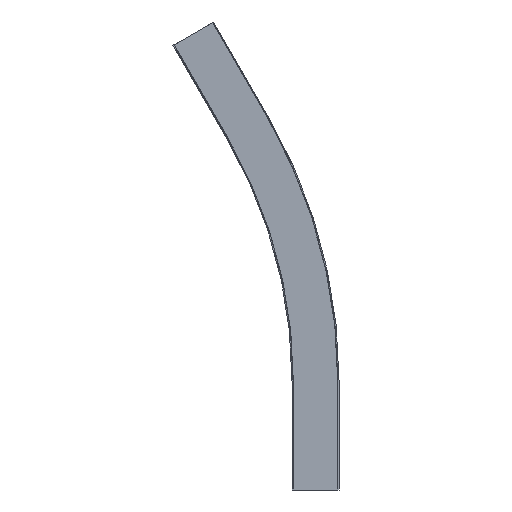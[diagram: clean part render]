
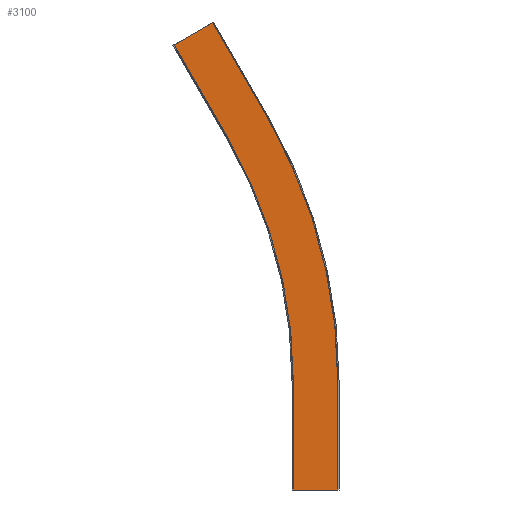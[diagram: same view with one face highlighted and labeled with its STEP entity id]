
A CAD part, front view. The second image highlights one B-rep face of the part: STEP entity #3100.
In plain terms, the highlighted planar face has unit normal (0, -1, 0).
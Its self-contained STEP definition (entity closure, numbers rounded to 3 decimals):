
#36 = VERTEX_POINT ( 'NONE', #2068 ) ;
#90 = LINE ( 'NONE', #2435, #1074 ) ;
#93 = CARTESIAN_POINT ( 'NONE',  ( -120.326, -42., 484.675 ) ) ;
#103 = CARTESIAN_POINT ( 'NONE',  ( -67.239, -42., 515.325 ) ) ;
#105 = ORIENTED_EDGE ( 'NONE', *, *, #2480, .T. ) ;
#240 = EDGE_CURVE ( 'NONE', #2067, #247, #2677, .T. ) ;
#247 = VERTEX_POINT ( 'NONE', #518 ) ;
#261 = ORIENTED_EDGE ( 'NONE', *, *, #240, .F. ) ;
#398 = LINE ( 'NONE', #2705, #1322 ) ;
#452 = DIRECTION ( 'NONE',  ( 0., 0., -1. ) ) ;
#482 = ORIENTED_EDGE ( 'NONE', *, *, #2368, .T. ) ;
#483 = DIRECTION ( 'NONE',  ( -0.866, 0., -0.5 ) ) ;
#516 = CARTESIAN_POINT ( 'NONE',  ( -67.239, -42., 515.325 ) ) ;
#518 = CARTESIAN_POINT ( 'NONE',  ( -30.65, -42., 0. ) ) ;
#663 = LINE ( 'NONE', #516, #2805 ) ;
#670 = EDGE_LOOP ( 'NONE', ( #261, #2778, #482, #105, #1512, #2005, #2331, #1966 ) ) ;
#725 = DIRECTION ( 'NONE',  ( 0., -1., 0. ) ) ;
#745 = VERTEX_POINT ( 'NONE', #985 ) ;
#754 = CIRCLE ( 'NONE', #2490, 669.35 ) ;
#943 = AXIS2_PLACEMENT_3D ( 'NONE', #1696, #725, #1717 ) ;
#985 = CARTESIAN_POINT ( 'NONE',  ( -142.239, -42., 645.229 ) ) ;
#1029 = DIRECTION ( 'NONE',  ( -0.5, 0., 0.866 ) ) ;
#1043 = CARTESIAN_POINT ( 'NONE',  ( -30.65, -42., 0. ) ) ;
#1054 = DIRECTION ( 'NONE',  ( 0., 0., -1. ) ) ;
#1074 = VECTOR ( 'NONE', #483, 1000. ) ;
#1278 = FACE_OUTER_BOUND ( 'NONE', #670, .T. ) ;
#1311 = EDGE_CURVE ( 'NONE', #745, #2496, #90, .T. ) ;
#1322 = VECTOR ( 'NONE', #2016, 1000. ) ;
#1429 = CARTESIAN_POINT ( 'NONE',  ( -30.65, -42., 150. ) ) ;
#1512 = ORIENTED_EDGE ( 'NONE', *, *, #1311, .T. ) ;
#1524 = DIRECTION ( 'NONE',  ( 1., 0., 0. ) ) ;
#1545 = PLANE ( 'NONE',  #2829 ) ;
#1696 = CARTESIAN_POINT ( 'NONE',  ( -700., -42., 150. ) ) ;
#1710 = EDGE_CURVE ( 'NONE', #36, #2109, #754, .T. ) ;
#1717 = DIRECTION ( 'NONE',  ( 0., 0., -1. ) ) ;
#1879 = CARTESIAN_POINT ( 'NONE',  ( -700., -42., 150. ) ) ;
#1966 = ORIENTED_EDGE ( 'NONE', *, *, #2317, .T. ) ;
#2001 = CARTESIAN_POINT ( 'NONE',  ( 30.65, -42., 0. ) ) ;
#2005 = ORIENTED_EDGE ( 'NONE', *, *, #2463, .F. ) ;
#2016 = DIRECTION ( 'NONE',  ( -0.5, 0., 0.866 ) ) ;
#2019 = DIRECTION ( 'NONE',  ( -1., 0., 0. ) ) ;
#2067 = VERTEX_POINT ( 'NONE', #2001 ) ;
#2068 = CARTESIAN_POINT ( 'NONE',  ( -30.65, -42., 150. ) ) ;
#2086 = LINE ( 'NONE', #2750, #3021 ) ;
#2096 = DIRECTION ( 'NONE',  ( 0., 0., -1. ) ) ;
#2109 = VERTEX_POINT ( 'NONE', #93 ) ;
#2123 = VECTOR ( 'NONE', #2019, 1000. ) ;
#2128 = DIRECTION ( 'NONE',  ( 0., -1., 0. ) ) ;
#2203 = VERTEX_POINT ( 'NONE', #2280 ) ;
#2217 = VERTEX_POINT ( 'NONE', #103 ) ;
#2254 = LINE ( 'NONE', #1429, #2469 ) ;
#2280 = CARTESIAN_POINT ( 'NONE',  ( 30.65, -42., 150. ) ) ;
#2317 = EDGE_CURVE ( 'NONE', #36, #247, #2254, .T. ) ;
#2331 = ORIENTED_EDGE ( 'NONE', *, *, #1710, .F. ) ;
#2368 = EDGE_CURVE ( 'Edge18', #2203, #2217, #2566, .T. ) ;
#2435 = CARTESIAN_POINT ( 'NONE',  ( -195.326, -42., 614.579 ) ) ;
#2463 = EDGE_CURVE ( 'NONE', #2109, #2496, #398, .T. ) ;
#2469 = VECTOR ( 'NONE', #452, 1000. ) ;
#2480 = EDGE_CURVE ( 'Edge42', #2217, #745, #663, .T. ) ;
#2490 = AXIS2_PLACEMENT_3D ( 'NONE', #1879, #2128, #2096 ) ;
#2496 = VERTEX_POINT ( 'NONE', #2946 ) ;
#2503 = DIRECTION ( 'NONE',  ( 0., -1., 0. ) ) ;
#2566 = CIRCLE ( 'NONE', #943, 730.65 ) ;
#2677 = LINE ( 'NONE', #1043, #2123 ) ;
#2705 = CARTESIAN_POINT ( 'NONE',  ( -120.326, -42., 484.675 ) ) ;
#2750 = CARTESIAN_POINT ( 'NONE',  ( 30.65, -42., 150. ) ) ;
#2778 = ORIENTED_EDGE ( 'NONE', *, *, #3128, .F. ) ;
#2805 = VECTOR ( 'NONE', #1029, 1000. ) ;
#2829 = AXIS2_PLACEMENT_3D ( 'NONE', #2979, #2503, #1524 ) ;
#2946 = CARTESIAN_POINT ( 'NONE',  ( -195.326, -42., 614.579 ) ) ;
#2979 = CARTESIAN_POINT ( 'NONE',  ( -30.65, -42., 150. ) ) ;
#3021 = VECTOR ( 'NONE', #1054, 1000. ) ;
#3100 = ADVANCED_FACE ( 'NONE', ( #1278 ), #1545, .T. ) ;
#3128 = EDGE_CURVE ( 'NONE', #2203, #2067, #2086, .T. ) ;
